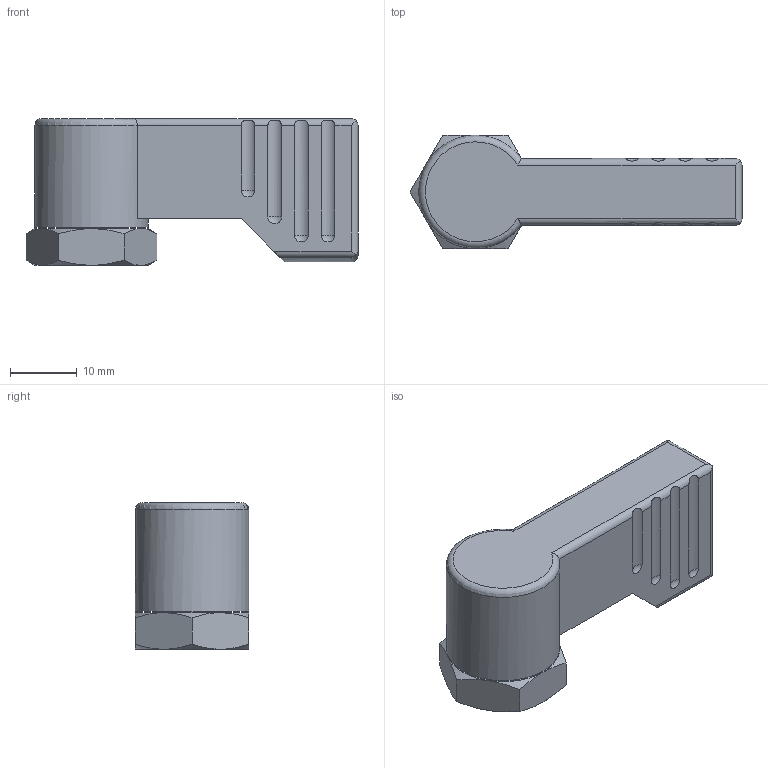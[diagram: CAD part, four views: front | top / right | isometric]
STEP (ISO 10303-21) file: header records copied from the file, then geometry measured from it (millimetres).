
FILE_DESCRIPTION(/* description */ ('STEP AP214'),/* implementation_level */ '2;1');
FILE_NAME(/* name */ 'Stop Lock GN 702-17-40-B-RS (0)',/* time_stamp */ '2024-10-01T09:59:12+02:00',/* author */ ('License CC BY-ND 4.0'),/* organization */ ('CADENAS'),/* preprocessor_version */ 'ST-DEVELOPER v19.3',/* originating_system */ 'PARTsolutions',/* authorisation */ ' ');
FILE_SCHEMA (('AUTOMOTIVE_DESIGN {1 0 10303 214 3 1 1}'));
Length unit declared in the file: millimetre
Products named in the file (3): Stop Lock GN 702-17-40-B-RS (0); Stop Lock GN 702-17-40-B-RS-2; Stop Lock GN 702-17-40-B-RS-1
Assembly tree (2 placements, depth 2):
  Stop Lock GN 702-17-40-B-RS (0)
    Stop Lock GN 702-17-40-B-RS-2
    Stop Lock GN 702-17-40-B-RS-1
Bounding box: 49.81 x 17 x 22 mm (x, y, z)
Volume: 10313.9 mm3; surface area: 4436.3 mm2
Topology: 2 solids, 2 shells, 69 faces, 160 edges, 102 vertices
Faces by surface type: cylinder 25, plane 22, cone 12, sphere 8, torus 2
Full cylindrical faces by diameter (mm): 2 x1, 6.647 x1, 9 x2, 10 x4, 17 x1
Entity records: 2053 total; most frequent: CARTESIAN_POINT 463, DIRECTION 317, ORIENTED_EDGE 300, EDGE_CURVE 150, AXIS2_PLACEMENT_3D 133, VERTEX_POINT 101, EDGE_LOOP 87, FACE_BOUND 87
